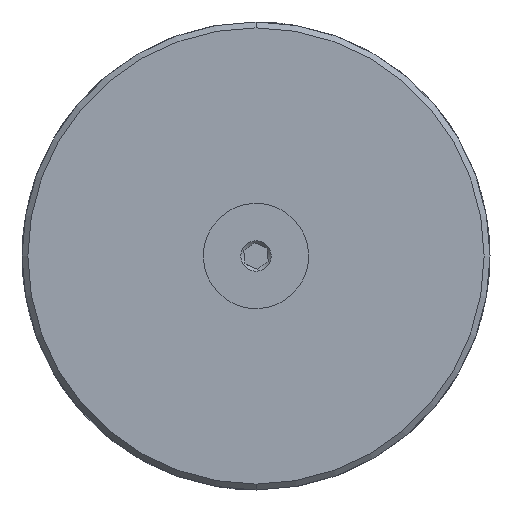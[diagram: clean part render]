
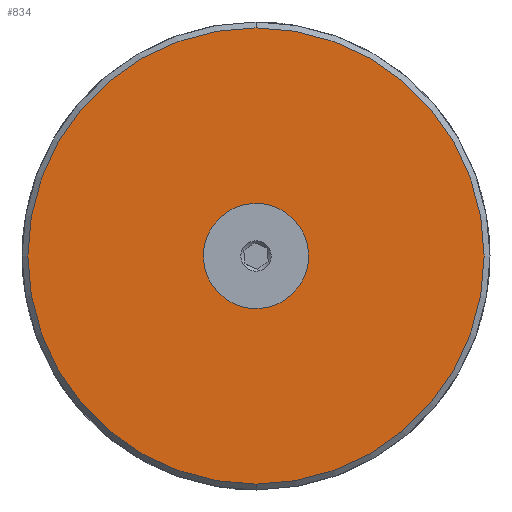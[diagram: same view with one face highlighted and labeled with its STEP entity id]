
A CAD part, front view. The second image highlights one B-rep face of the part: STEP entity #834.
In plain terms, the highlighted planar face has unit normal (0, -1, 0).
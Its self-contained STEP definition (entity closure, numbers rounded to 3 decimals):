
#70 = ORIENTED_EDGE ( 'NONE', *, *, #980, .T. ) ;
#109 = DIRECTION ( 'NONE',  ( 0., 0., 1. ) ) ;
#111 = DIRECTION ( 'NONE',  ( 0., -1., 0. ) ) ;
#113 = CARTESIAN_POINT ( 'NONE',  ( 0., 0., 0. ) ) ;
#138 = DIRECTION ( 'NONE',  ( 0., -1., 0. ) ) ;
#141 = DIRECTION ( 'NONE',  ( 0., 0., 1. ) ) ;
#142 = DIRECTION ( 'NONE',  ( 0., 0., 1. ) ) ;
#145 = CARTESIAN_POINT ( 'NONE',  ( 0., 0., 0. ) ) ;
#147 = DIRECTION ( 'NONE',  ( 0., 1., 0. ) ) ;
#151 = CARTESIAN_POINT ( 'NONE',  ( 0., 0., 0. ) ) ;
#240 = DIRECTION ( 'NONE',  ( 0., 1., 0. ) ) ;
#242 = DIRECTION ( 'NONE',  ( 0., 0., 1. ) ) ;
#244 = CARTESIAN_POINT ( 'NONE',  ( 0., 0., 0. ) ) ;
#250 = VERTEX_POINT ( 'NONE', #856 ) ;
#278 = CARTESIAN_POINT ( 'NONE',  ( 0., 0., 39. ) ) ;
#371 = ORIENTED_EDGE ( 'NONE', *, *, #722, .T. ) ;
#377 = VERTEX_POINT ( 'NONE', #679 ) ;
#592 = AXIS2_PLACEMENT_3D ( 'NONE', #1078, #704, #1053 ) ;
#597 = VERTEX_POINT ( 'NONE', #278 ) ;
#679 = CARTESIAN_POINT ( 'NONE',  ( 0., 0., -39. ) ) ;
#704 = DIRECTION ( 'NONE',  ( 0., 1., 0. ) ) ;
#722 = EDGE_CURVE ( 'NONE', #250, #1716, #859, .T. ) ;
#767 = EDGE_CURVE ( 'NONE', #377, #597, #1080, .T. ) ;
#834 = ADVANCED_FACE ( 'NONE', ( #967, #964 ), #1126, .F. ) ;
#856 = CARTESIAN_POINT ( 'NONE',  ( 0., 0., -6. ) ) ;
#859 = CIRCLE ( 'NONE', #1470, 6. ) ;
#947 = CIRCLE ( 'NONE', #1151, 39. ) ;
#948 = CIRCLE ( 'NONE', #1192, 6. ) ;
#964 = FACE_OUTER_BOUND ( 'NONE', #1656, .T. ) ;
#967 = FACE_BOUND ( 'NONE', #1981, .T. ) ;
#973 = EDGE_CURVE ( 'NONE', #1716, #250, #948, .T. ) ;
#980 = EDGE_CURVE ( 'NONE', #597, #377, #947, .T. ) ;
#1053 = DIRECTION ( 'NONE',  ( 0., 0., 1. ) ) ;
#1078 = CARTESIAN_POINT ( 'NONE',  ( 0., 0., 0. ) ) ;
#1080 = CIRCLE ( 'NONE', #1412, 39. ) ;
#1126 = PLANE ( 'NONE',  #592 ) ;
#1137 = ORIENTED_EDGE ( 'NONE', *, *, #767, .T. ) ;
#1151 = AXIS2_PLACEMENT_3D ( 'NONE', #145, #138, #141 ) ;
#1170 = ORIENTED_EDGE ( 'NONE', *, *, #973, .T. ) ;
#1192 = AXIS2_PLACEMENT_3D ( 'NONE', #244, #240, #242 ) ;
#1412 = AXIS2_PLACEMENT_3D ( 'NONE', #113, #111, #109 ) ;
#1470 = AXIS2_PLACEMENT_3D ( 'NONE', #151, #147, #142 ) ;
#1584 = CARTESIAN_POINT ( 'NONE',  ( 0., 0., 6. ) ) ;
#1656 = EDGE_LOOP ( 'NONE', ( #70, #1137 ) ) ;
#1716 = VERTEX_POINT ( 'NONE', #1584 ) ;
#1981 = EDGE_LOOP ( 'NONE', ( #371, #1170 ) ) ;
